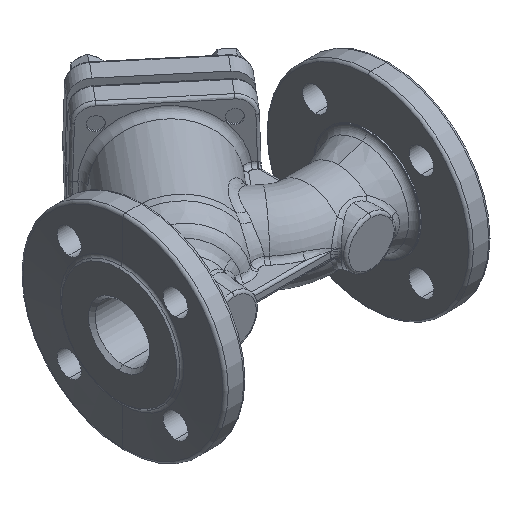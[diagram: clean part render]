
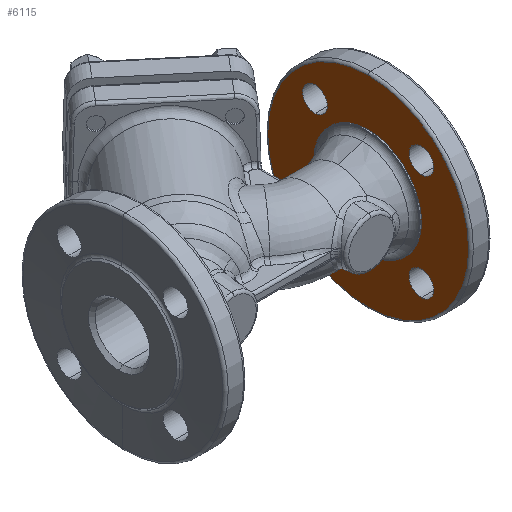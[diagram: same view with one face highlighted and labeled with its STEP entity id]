
A CAD part, isometric view. The second image highlights one B-rep face of the part: STEP entity #6115.
In plain terms, the highlighted planar face has unit normal (-1, 0, 0).
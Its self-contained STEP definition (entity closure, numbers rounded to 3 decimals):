
#3645 = CARTESIAN_POINT ( 'NONE',  ( 182., -79.443, 0. ) ) ;
#3648 = PLANE ( 'NONE',  #24518 ) ;
#3651 = DIRECTION ( 'NONE',  ( 1., 0., 0. ) ) ;
#3652 = DIRECTION ( 'NONE',  ( 0., 0., 1. ) ) ;
#3799 = ORIENTED_EDGE ( 'NONE', *, *, #10444, .F. ) ;
#3800 = ORIENTED_EDGE ( 'NONE', *, *, #9968, .F. ) ;
#3801 = ORIENTED_EDGE ( 'NONE', *, *, #10436, .F. ) ;
#3802 = ORIENTED_EDGE ( 'NONE', *, *, #9973, .F. ) ;
#3803 = ORIENTED_EDGE ( 'NONE', *, *, #10091, .F. ) ;
#6115 = ADVANCED_FACE ( 'NONE', ( #35333, #35350, #35352, #35354, #35329, #35339 ), #3648, .F. ) ;
#6962 = CARTESIAN_POINT ( 'NONE',  ( 182., -38.891, 38.891 ) ) ;
#6964 = DIRECTION ( 'NONE',  ( -1., 0., 0. ) ) ;
#6965 = DIRECTION ( 'NONE',  ( 0., 0., -1. ) ) ;
#7014 = CARTESIAN_POINT ( 'NONE',  ( 182., -38.891, -38.891 ) ) ;
#7016 = DIRECTION ( 'NONE',  ( -1., 0., 0. ) ) ;
#7017 = DIRECTION ( 'NONE',  ( 0., 0., -1. ) ) ;
#7033 = CARTESIAN_POINT ( 'NONE',  ( 182., 38.891, -38.891 ) ) ;
#7034 = DIRECTION ( 'NONE',  ( -1., 0., 0. ) ) ;
#7035 = DIRECTION ( 'NONE',  ( 0., 0., -1. ) ) ;
#7043 = CARTESIAN_POINT ( 'NONE',  ( 182., 38.891, 38.891 ) ) ;
#7045 = DIRECTION ( 'NONE',  ( -1., 0., 0. ) ) ;
#7046 = DIRECTION ( 'NONE',  ( 0., 0., -1. ) ) ;
#7535 = CARTESIAN_POINT ( 'NONE',  ( 182., 0., 0. ) ) ;
#7544 = DIRECTION ( 'NONE',  ( 1., 0., 0. ) ) ;
#7545 = DIRECTION ( 'NONE',  ( 0., 0., -1. ) ) ;
#9938 = EDGE_CURVE ( 'NONE', #38905, #38904, #24002, .T. ) ;
#9959 = EDGE_CURVE ( 'NONE', #38849, #38848, #24015, .T. ) ;
#9968 = EDGE_CURVE ( 'NONE', #38853, #38852, #24023, .T. ) ;
#9973 = EDGE_CURVE ( 'NONE', #38845, #38844, #24027, .T. ) ;
#9974 = EDGE_CURVE ( 'NONE', #38841, #38840, #24028, .T. ) ;
#10091 = EDGE_CURVE ( 'NONE', #38773, #38772, #22068, .T. ) ;
#10351 = EDGE_CURVE ( 'NONE', #38772, #38773, #18784, .T. ) ;
#10432 = EDGE_CURVE ( 'NONE', #38840, #38841, #18860, .T. ) ;
#10436 = EDGE_CURVE ( 'NONE', #38844, #38845, #18866, .T. ) ;
#10440 = EDGE_CURVE ( 'NONE', #38848, #38849, #18870, .T. ) ;
#10444 = EDGE_CURVE ( 'NONE', #38852, #38853, #18878, .T. ) ;
#10517 = EDGE_CURVE ( 'NONE', #38904, #38905, #18961, .T. ) ;
#14747 = CARTESIAN_POINT ( 'NONE',  ( 182., 0., -39. ) ) ;
#14748 = CARTESIAN_POINT ( 'NONE',  ( 182., 0., 39. ) ) ;
#14815 = CARTESIAN_POINT ( 'NONE',  ( 182., -38.891, 29.891 ) ) ;
#14816 = CARTESIAN_POINT ( 'NONE',  ( 182., -38.891, 47.891 ) ) ;
#14819 = CARTESIAN_POINT ( 'NONE',  ( 182., -38.891, -47.891 ) ) ;
#14820 = CARTESIAN_POINT ( 'NONE',  ( 182., -38.891, -29.891 ) ) ;
#14823 = CARTESIAN_POINT ( 'NONE',  ( 182., 38.891, -47.891 ) ) ;
#14824 = CARTESIAN_POINT ( 'NONE',  ( 182., 38.891, -29.891 ) ) ;
#14827 = CARTESIAN_POINT ( 'NONE',  ( 182., 38.891, 29.891 ) ) ;
#14828 = CARTESIAN_POINT ( 'NONE',  ( 182., 38.891, 47.891 ) ) ;
#14879 = CARTESIAN_POINT ( 'NONE',  ( 182., 0., 73.452 ) ) ;
#14880 = CARTESIAN_POINT ( 'NONE',  ( 182., 0., -73.452 ) ) ;
#18784 = CIRCLE ( 'NONE', #24917, 39. ) ;
#18860 = CIRCLE ( 'NONE', #24945, 9. ) ;
#18866 = CIRCLE ( 'NONE', #24943, 9. ) ;
#18870 = CIRCLE ( 'NONE', #24944, 9. ) ;
#18878 = CIRCLE ( 'NONE', #24951, 9. ) ;
#18961 = CIRCLE ( 'NONE', #24983, 73.452 ) ;
#21303 = CARTESIAN_POINT ( 'NONE',  ( 182., 0., 0. ) ) ;
#21304 = DIRECTION ( 'NONE',  ( 1., 0., 0. ) ) ;
#21305 = DIRECTION ( 'NONE',  ( 0., 0., -1. ) ) ;
#21496 = CARTESIAN_POINT ( 'NONE',  ( 182., 38.891, -38.891 ) ) ;
#21518 = DIRECTION ( 'NONE',  ( -1., 0., 0. ) ) ;
#21519 = DIRECTION ( 'NONE',  ( 0., 0., -1. ) ) ;
#21558 = CARTESIAN_POINT ( 'NONE',  ( 182., 38.891, 38.891 ) ) ;
#21559 = DIRECTION ( 'NONE',  ( -1., 0., 0. ) ) ;
#21560 = DIRECTION ( 'NONE',  ( 0., 0., -1. ) ) ;
#21573 = CARTESIAN_POINT ( 'NONE',  ( 182., -38.891, -38.891 ) ) ;
#21574 = DIRECTION ( 'NONE',  ( -1., 0., 0. ) ) ;
#21575 = DIRECTION ( 'NONE',  ( 0., 0., -1. ) ) ;
#21576 = CARTESIAN_POINT ( 'NONE',  ( 182., -38.891, 38.891 ) ) ;
#21577 = DIRECTION ( 'NONE',  ( -1., 0., 0. ) ) ;
#21578 = DIRECTION ( 'NONE',  ( 0., 0., -1. ) ) ;
#22068 = CIRCLE ( 'NONE', #24774, 39. ) ;
#24002 = CIRCLE ( 'NONE', #24689, 73.452 ) ;
#24015 = CIRCLE ( 'NONE', #24703, 9. ) ;
#24023 = CIRCLE ( 'NONE', #24709, 9. ) ;
#24027 = CIRCLE ( 'NONE', #24713, 9. ) ;
#24028 = CIRCLE ( 'NONE', #24715, 9. ) ;
#24518 = AXIS2_PLACEMENT_3D ( 'NONE', #3645, #3651, #3652 ) ;
#24689 = AXIS2_PLACEMENT_3D ( 'NONE', #21303, #21304, #21305 ) ;
#24703 = AXIS2_PLACEMENT_3D ( 'NONE', #21496, #21518, #21519 ) ;
#24709 = AXIS2_PLACEMENT_3D ( 'NONE', #21558, #21559, #21560 ) ;
#24713 = AXIS2_PLACEMENT_3D ( 'NONE', #21573, #21574, #21575 ) ;
#24715 = AXIS2_PLACEMENT_3D ( 'NONE', #21576, #21577, #21578 ) ;
#24774 = AXIS2_PLACEMENT_3D ( 'NONE', #25623, #25640, #25641 ) ;
#24917 = AXIS2_PLACEMENT_3D ( 'NONE', #26641, #26642, #26643 ) ;
#24943 = AXIS2_PLACEMENT_3D ( 'NONE', #7014, #7016, #7017 ) ;
#24944 = AXIS2_PLACEMENT_3D ( 'NONE', #7033, #7034, #7035 ) ;
#24945 = AXIS2_PLACEMENT_3D ( 'NONE', #6962, #6964, #6965 ) ;
#24951 = AXIS2_PLACEMENT_3D ( 'NONE', #7043, #7045, #7046 ) ;
#24983 = AXIS2_PLACEMENT_3D ( 'NONE', #7535, #7544, #7545 ) ;
#25623 = CARTESIAN_POINT ( 'NONE',  ( 182., 0., 0. ) ) ;
#25640 = DIRECTION ( 'NONE',  ( -1., 0., 0. ) ) ;
#25641 = DIRECTION ( 'NONE',  ( 0., 0., 1. ) ) ;
#26641 = CARTESIAN_POINT ( 'NONE',  ( 182., 0., 0. ) ) ;
#26642 = DIRECTION ( 'NONE',  ( -1., 0., 0. ) ) ;
#26643 = DIRECTION ( 'NONE',  ( 0., 0., 1. ) ) ;
#34140 = ORIENTED_EDGE ( 'NONE', *, *, #10351, .F. ) ;
#34141 = ORIENTED_EDGE ( 'NONE', *, *, #10432, .F. ) ;
#34142 = ORIENTED_EDGE ( 'NONE', *, *, #9974, .F. ) ;
#34143 = ORIENTED_EDGE ( 'NONE', *, *, #10440, .F. ) ;
#34144 = ORIENTED_EDGE ( 'NONE', *, *, #9959, .F. ) ;
#34145 = ORIENTED_EDGE ( 'NONE', *, *, #10517, .F. ) ;
#34146 = ORIENTED_EDGE ( 'NONE', *, *, #9938, .F. ) ;
#34816 = EDGE_LOOP ( 'NONE', ( #3799, #3800 ) ) ;
#34818 = EDGE_LOOP ( 'NONE', ( #3801, #3802 ) ) ;
#34819 = EDGE_LOOP ( 'NONE', ( #3803, #34140 ) ) ;
#34820 = EDGE_LOOP ( 'NONE', ( #34141, #34142 ) ) ;
#34821 = EDGE_LOOP ( 'NONE', ( #34143, #34144 ) ) ;
#34822 = EDGE_LOOP ( 'NONE', ( #34145, #34146 ) ) ;
#35329 = FACE_BOUND ( 'NONE', #34821, .T. ) ;
#35333 = FACE_BOUND ( 'NONE', #34816, .T. ) ;
#35339 = FACE_OUTER_BOUND ( 'NONE', #34822, .T. ) ;
#35350 = FACE_BOUND ( 'NONE', #34818, .T. ) ;
#35352 = FACE_BOUND ( 'NONE', #34819, .T. ) ;
#35354 = FACE_BOUND ( 'NONE', #34820, .T. ) ;
#38772 = VERTEX_POINT ( 'NONE', #14747 ) ;
#38773 = VERTEX_POINT ( 'NONE', #14748 ) ;
#38840 = VERTEX_POINT ( 'NONE', #14815 ) ;
#38841 = VERTEX_POINT ( 'NONE', #14816 ) ;
#38844 = VERTEX_POINT ( 'NONE', #14819 ) ;
#38845 = VERTEX_POINT ( 'NONE', #14820 ) ;
#38848 = VERTEX_POINT ( 'NONE', #14823 ) ;
#38849 = VERTEX_POINT ( 'NONE', #14824 ) ;
#38852 = VERTEX_POINT ( 'NONE', #14827 ) ;
#38853 = VERTEX_POINT ( 'NONE', #14828 ) ;
#38904 = VERTEX_POINT ( 'NONE', #14879 ) ;
#38905 = VERTEX_POINT ( 'NONE', #14880 ) ;
